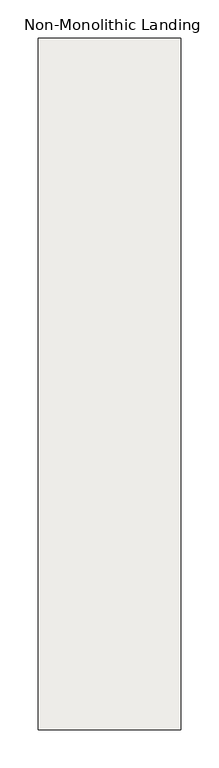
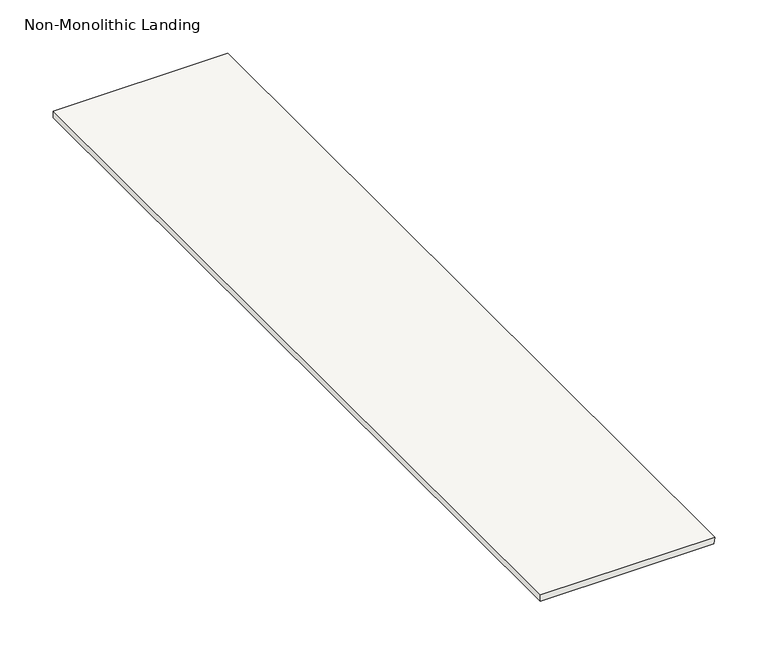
"""IFC4 building model written with IfcOpenShell, lengths in millimetres: slab geometry, Non-Monolithic Landing."""

from ifc_helpers import new_model, si_unit, frame, origin, place, context, project, spatial, polyline, outline, extrude, source, transform, mapped, element, save


def non_monolithic_landing_b5af4ec4(model_context):
    return source(origin(), model_context, "Body", "SweptSolid", [
        extrude(outline(polyline([(3400.0, 12700.5000334), (3400.0, 12512.5), (3392.5, 12512.5), (3392.5, 12699.6818516), (3400.0, 12700.5000334)])), frame((0.0, 7849.9999985, 0.0), z_axis=(0.0, 1.0, 0.0), x_axis=(0.0, 0.0, 1.0)), (0.0, 0.0, 1.0), 910.0),
    ])


if __name__ == "__main__":
    model = new_model("IFC4")
    model_context = context("Model", 3, world=origin())
    ifc_project = project(units=[si_unit("LENGTHUNIT", "METRE", prefix="MILLI")], contexts=[model_context])
    site = spatial("IfcSite", under=ifc_project)
    building = spatial("IfcBuilding", under=site)
    placement = place(None, origin())
    non_monolithic_landing_shape = non_monolithic_landing_b5af4ec4(model_context)
    element("IfcSlab", 1, ObjectType="Non-Monolithic Landing", at=placement, inside=building, context=model_context, shape_type="MappedRepresentation", body=[
        mapped(non_monolithic_landing_shape, transform((0.0, 0.0, 0.0), x_axis=(1.0, 0.0, 0.0), y_axis=(0.0, 1.0, 0.0), z_axis=(0.0, 0.0, 1.0))),
    ])
    save(model, "model.ifc")
